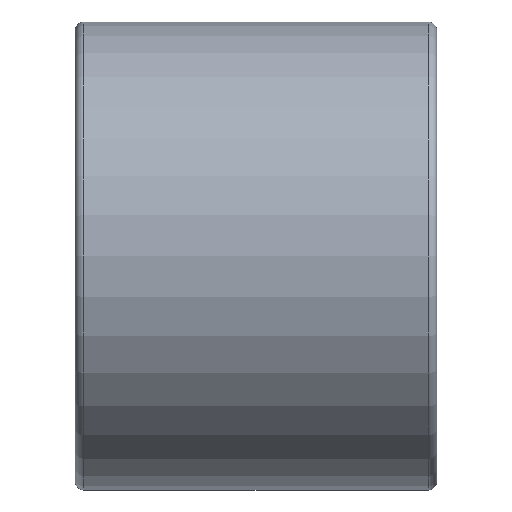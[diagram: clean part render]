
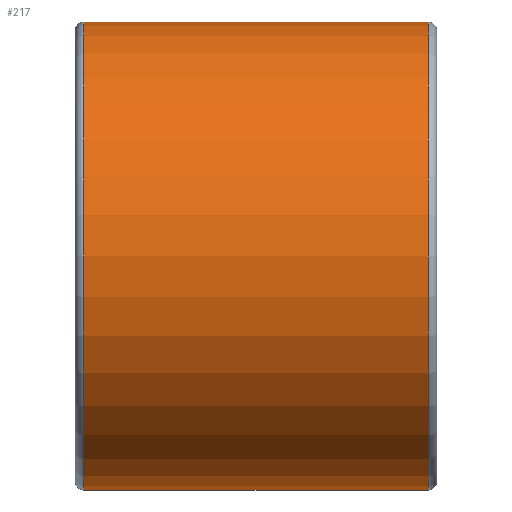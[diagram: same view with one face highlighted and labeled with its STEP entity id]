
A CAD part, front view. The second image highlights one B-rep face of the part: STEP entity #217.
In plain terms, the highlighted cylindrical face has radius 55 mm (diameter 110 mm), a full revolution.
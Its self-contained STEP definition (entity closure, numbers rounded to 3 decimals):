
#27=CYLINDRICAL_SURFACE('',#250,55.);
#32=FACE_BOUND('',#70,.T.);
#47=FACE_OUTER_BOUND('',#69,.T.);
#69=EDGE_LOOP('',(#156));
#70=EDGE_LOOP('',(#157));
#103=CIRCLE('',#248,55.);
#105=CIRCLE('',#251,55.);
#120=VERTEX_POINT('',#365);
#122=VERTEX_POINT('',#370);
#137=EDGE_CURVE('',#120,#120,#103,.T.);
#139=EDGE_CURVE('',#122,#122,#105,.T.);
#156=ORIENTED_EDGE('',*,*,#139,.F.);
#157=ORIENTED_EDGE('',*,*,#137,.F.);
#217=ADVANCED_FACE('',(#47,#32),#27,.T.);
#248=AXIS2_PLACEMENT_3D('',#366,#289,#290);
#250=AXIS2_PLACEMENT_3D('',#369,#293,#294);
#251=AXIS2_PLACEMENT_3D('',#371,#295,#296);
#289=DIRECTION('center_axis',(-1.,0.,0.));
#290=DIRECTION('ref_axis',(0.,0.,-1.));
#293=DIRECTION('center_axis',(-1.,0.,0.));
#294=DIRECTION('ref_axis',(0.,0.,1.));
#295=DIRECTION('center_axis',(1.,0.,0.));
#296=DIRECTION('ref_axis',(0.,0.,-1.));
#365=CARTESIAN_POINT('',(-63.,0.,55.));
#366=CARTESIAN_POINT('Origin',(-63.,0.,0.));
#369=CARTESIAN_POINT('Origin',(-22.5,0.,0.));
#370=CARTESIAN_POINT('',(18.,0.,55.));
#371=CARTESIAN_POINT('Origin',(18.,0.,0.));
